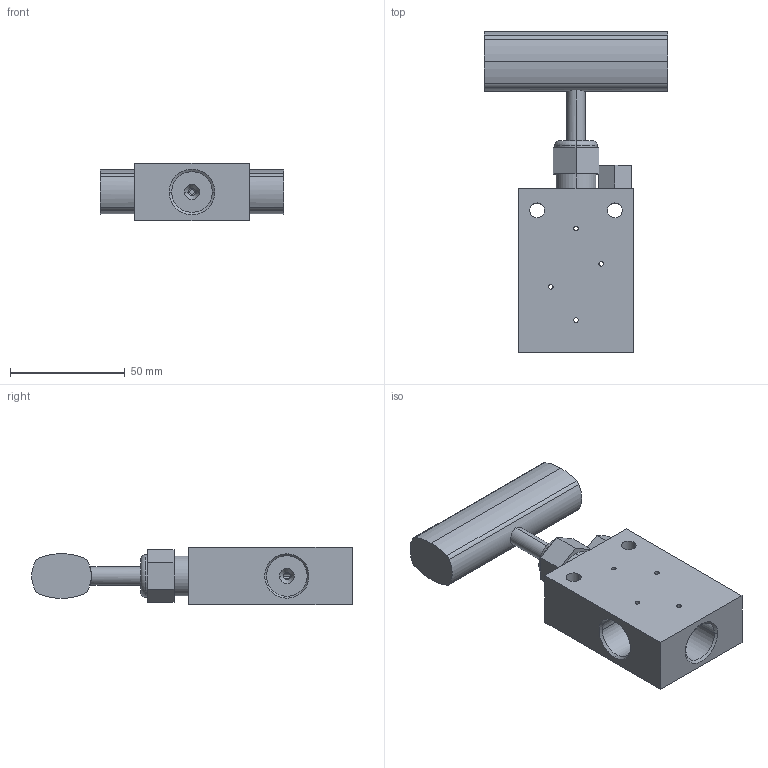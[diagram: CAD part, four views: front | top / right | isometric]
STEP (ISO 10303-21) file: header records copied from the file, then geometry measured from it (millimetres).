
FILE_DESCRIPTION (( 'STEP AP203' ), '1' );
FILE_NAME ('NV60VS06-T-00-00.STEP', '2023-02-21T08:16:04', ( 'USER' ), ( '' ), 'SwSTEP 2.0', 'SolidWorks 2020', '' );
FILE_SCHEMA (( 'CONFIG_CONTROL_DESIGN' ));
Length unit declared in the file: millimetre
Products named in the file (1): NV60VS06-T-00-00
Bounding box: 80 x 139.71 x 25 mm (x, y, z)
Volume: 118514.1 mm3; surface area: 26744.9 mm2
Topology: 1 solids, 1 shells, 104 faces, 261 edges, 164 vertices
Faces by surface type: cylinder 53, plane 31, cone 18, torus 2
Entity records: 3652 total; most frequent: CARTESIAN_POINT 994, DIRECTION 551, ORIENTED_EDGE 522, EDGE_CURVE 261, AXIS2_PLACEMENT_3D 211, VERTEX_POINT 164, EDGE_LOOP 135, LINE 129
